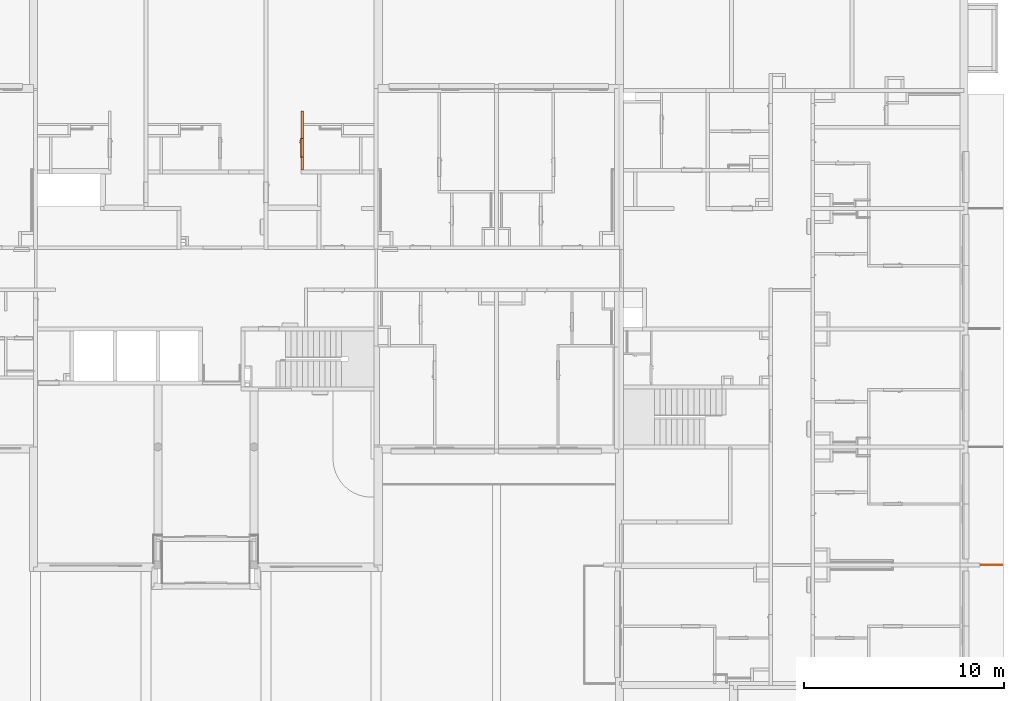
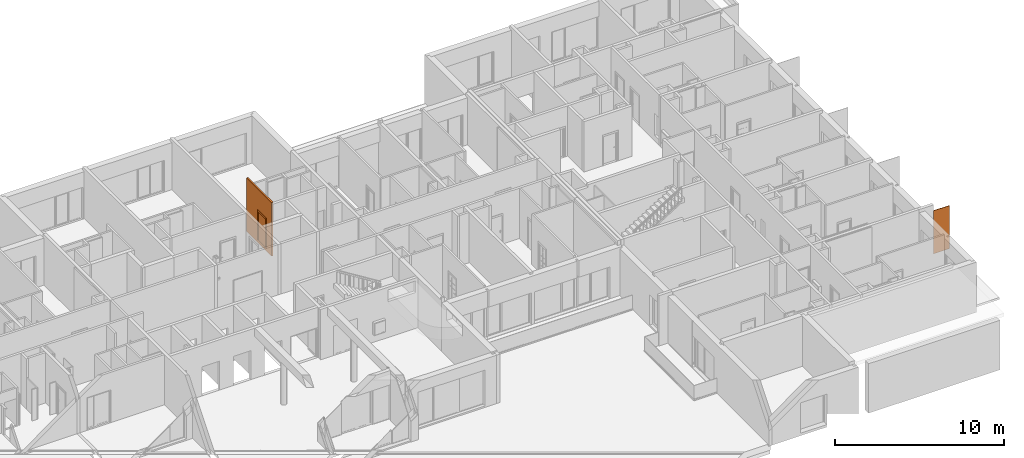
# One storey, part 16 of 46: 3 proxies, 1 opening.
"""IFC2X3 building model written with IfcOpenShell, lengths in millimetres."""

from ifc_helpers import new_model, entity, si_unit, converted_unit, derived_unit, money_unit, direction, frame, origin_with_axes, origin_2d_with_axis, place, context, subcontext, project, spatial, polyline, rectangle, outline, extrude, open_shell, faceted_brep, surface_model, source, transform, mapped, material, type_object, element, fill, save


model = new_model("IFC2X3")

# Units and contexts
model_context = context("Model", 3, precision=0.01, world=origin_with_axes(), true_north=direction((0.34421633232, 0.938890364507)))
body_context = subcontext(model_context, "Body", "Model", "MODEL_VIEW")
ifc_project = project(units=[si_unit("LENGTHUNIT", "METRE", prefix="MILLI"), si_unit("AREAUNIT", "SQUARE_METRE"), si_unit("VOLUMEUNIT", "CUBIC_METRE"), converted_unit("PLANEANGLEUNIT", "DEGREE", entity("IfcPlaneAngleMeasure", 0.0174532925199), si_unit("PLANEANGLEUNIT", "RADIAN"), dimensions=[0, 0, 0, 0, 0, 0, 0]), si_unit("SOLIDANGLEUNIT", "STERADIAN"), money_unit("USD"), converted_unit("TIMEUNIT", "Year", entity("IfcTimeMeasure", 31556926.0), si_unit("TIMEUNIT", "SECOND"), dimensions=[0, 0, 1, 0, 0, 0, 0]), si_unit("MASSUNIT", "GRAM", prefix="KILO"), si_unit("THERMODYNAMICTEMPERATUREUNIT", "DEGREE_CELSIUS"), si_unit("LUMINOUSINTENSITYUNIT", "LUMEN"), si_unit("ENERGYUNIT", "JOULE", prefix="MEGA"), derived_unit("THERMALCONDUCTANCEUNIT", [(si_unit("POWERUNIT", "WATT"), 1), (si_unit("LENGTHUNIT", "METRE"), -1), (si_unit("THERMODYNAMICTEMPERATUREUNIT", "KELVIN"), -1)]), derived_unit("SPECIFICHEATCAPACITYUNIT", [(si_unit("ENERGYUNIT", "JOULE"), 1), (si_unit("MASSUNIT", "GRAM", prefix="KILO"), -1), (si_unit("THERMODYNAMICTEMPERATUREUNIT", "KELVIN"), -1)]), derived_unit("MASSDENSITYUNIT", [(si_unit("MASSUNIT", "GRAM", prefix="KILO"), 1), (si_unit("VOLUMEUNIT", "CUBIC_METRE"), -1)])], contexts=[model_context])

# Site, building, storey
site_placement = place(None, origin_with_axes())
site = spatial("IfcSite", under=ifc_project, at=site_placement, Name="USTRONIE MORSKIE", CompositionType="ELEMENT")
building_placement = place(site_placement, origin_with_axes())
building = spatial("IfcBuilding", under=site, at=building_placement, Name="Budynek", CompositionType="ELEMENT")
storey_placement = place(building_placement, origin_with_axes())
storey = spatial("IfcBuildingStorey", under=building, at=storey_placement, Name="PARTER", CompositionType="ELEMENT", Elevation=0.0)

# Proxies, opening
ifc_material_1 = material(Name="Bloczki silikatowe")
building_element_proxy_type_1 = type_object("IfcBuildingElementProxyType", Name="Bloczki silikatowe 120", PredefinedType="NOTDEFINED")
proxy_1_placement = place(storey_placement, frame((392617.911316, 743681.199036, -230.0), z_axis=(0.0, 0.0, 1.0), x_axis=(0.0, -1.0, 0.0)))
proxy_1 = element("IfcBuildingElementProxy", 1, at=proxy_1_placement, inside=storey, type_object=building_element_proxy_type_1, material=ifc_material_1, Name="SW-04", context=body_context, shape_type="Brep", body=[
    faceted_brep([(2960.0, 60.0, 0.0), (2960.0, -60.0, 0.0), (0.0, -60.0, 0.0), (0.0, 60.0, 0.0), (2960.0, 60.0, 3870.0), (2960.0, -60.0, 3870.0), (0.0, -60.0, 3870.0), (0.0, 60.0, 3870.0)], [[[0, 1, 2, 3]], [[1, 0, 4, 5]], [[1, 5, 6, 2]], [[7, 3, 2, 6]], [[4, 0, 3, 7]], [[5, 4, 7, 6]]]),
])
opening_placement = place(proxy_1_placement, frame((1850.00001479, 0.0, 230.0), z_axis=(0.0, 0.0, 1.0), x_axis=(1.0, 0.0, 0.0)))
opening = element("IfcOpeningElement", 2, at=opening_placement, cuts=proxy_1, Name="Dw.4", context=body_context, shape_type="SweptSolid", body=[
    extrude(rectangle(XDim=920.0, YDim=2070.0, at=origin_2d_with_axis()), frame((0.0, -120.0, 1035.0), z_axis=(0.0, -1.0, 0.0), x_axis=(1.0, 0.0, 0.0)), (0.0, 0.0, -1.0), 360.0),
    extrude(rectangle(XDim=994.0, YDim=2177.0, at=origin_2d_with_axis()), frame((0.0, -60.0, 1088.5), z_axis=(0.0, -1.0, 0.0), x_axis=(1.0, 0.0, 0.0)), (0.0, 0.0, 1.0), 120.0),
    extrude(rectangle(XDim=994.0, YDim=2177.0, at=origin_2d_with_axis()), frame((0.0, 60.0, 1088.5), z_axis=(0.0, 1.0, 0.0), x_axis=(1.0, 0.0, 0.0)), (0.0, 0.0, 1.0), 120.0),
])
building_element_proxy_type_2 = type_object("IfcBuildingElementProxyType", Name="Drzwi 23", PredefinedType="NOTDEFINED")
shared_shape = source(origin_with_axes(), body_context, "Body", "SurfaceModel", [
    faceted_brep([(460.0, 0.0, 0.0), (435.0, 0.0, 0.0), (435.0, 5.0, 0.0), (460.0, 5.0, 0.0), (460.0, 0.0, 2070.0), (435.0, 0.0, 2045.0), (435.0, 5.0, 2045.0), (460.0, 5.0, 2070.0)], [[[0, 1, 2, 3]], [[0, 4, 5, 1]], [[1, 5, 6, 2]], [[3, 2, 6, 7]], [[4, 0, 3, 7]], [[5, 4, 7, 6]]]),
    faceted_brep([(-460.0, 0.0, 2070.0), (-435.0, 0.0, 2045.0), (-435.0, 5.0, 2045.0), (-460.0, 5.0, 2070.0), (-460.0, 0.0, 0.0), (-435.0, 0.0, 0.0), (-435.0, 5.0, 0.0), (-460.0, 5.0, 0.0)], [[[0, 1, 2, 3]], [[0, 4, 5, 1]], [[1, 5, 6, 2]], [[3, 2, 6, 7]], [[4, 0, 3, 7]], [[5, 4, 7, 6]]]),
    faceted_brep([(435.0, 0.0, 2045.0), (-435.0, 0.0, 2045.0), (-435.0, 5.0, 2045.0), (435.0, 5.0, 2045.0), (460.0, 0.0, 2070.0), (-460.0, 0.0, 2070.0), (-460.0, 5.0, 2070.0), (460.0, 5.0, 2070.0)], [[[0, 1, 2, 3]], [[0, 4, 5, 1]], [[1, 5, 6, 2]], [[3, 2, 6, 7]], [[4, 0, 3, 7]], [[5, 4, 7, 6]]]),
    faceted_brep([(497.0, 24.0, 0.0), (497.0, 5.0, 0.0), (447.0, 5.0, 0.0), (447.0, 24.0, 0.0), (497.0, 24.0, 2177.0), (497.0, 5.0, 2177.0), (447.0, 5.0, 2057.0), (447.0, 24.0, 2057.0)], [[[0, 1, 2, 3]], [[4, 5, 1, 0]], [[1, 5, 6, 2]], [[3, 2, 6, 7]], [[0, 3, 7, 4]], [[7, 6, 5, 4]]]),
    faceted_brep([(-497.0, 24.0, 2177.0), (-497.0, 5.0, 2177.0), (-447.0, 5.0, 2057.0), (-447.0, 24.0, 2057.0), (-497.0, 24.0, 0.0), (-497.0, 5.0, 0.0), (-447.0, 5.0, 0.0), (-447.0, 24.0, 0.0)], [[[0, 1, 2, 3]], [[4, 5, 1, 0]], [[1, 5, 6, 2]], [[3, 2, 6, 7]], [[0, 3, 7, 4]], [[7, 6, 5, 4]]]),
    faceted_brep([(497.0, 24.0, 2177.0), (497.0, 5.0, 2177.0), (447.0, 5.0, 2057.0), (447.0, 24.0, 2057.0), (-497.0, 24.0, 2177.0), (-497.0, 5.0, 2177.0), (-447.0, 5.0, 2057.0), (-447.0, 24.0, 2057.0)], [[[0, 1, 2, 3]], [[4, 5, 1, 0]], [[1, 5, 6, 2]], [[3, 2, 6, 7]], [[0, 3, 7, 4]], [[7, 6, 5, 4]]]),
    faceted_brep([(497.0, -134.0, 0.0), (447.0, -134.0, 0.0), (447.0, -115.0, 0.0), (497.0, -115.0, 0.0), (497.0, -134.0, 2177.0), (447.0, -134.0, 2057.0), (447.0, -115.0, 2057.0), (497.0, -115.0, 2177.0)], [[[0, 1, 2, 3]], [[0, 4, 5, 1]], [[1, 5, 6, 2]], [[3, 2, 6, 7]], [[4, 0, 3, 7]], [[5, 4, 7, 6]]]),
    faceted_brep([(-497.0, -134.0, 2177.0), (-447.0, -134.0, 2057.0), (-447.0, -115.0, 2057.0), (-497.0, -115.0, 2177.0), (-497.0, -134.0, 0.0), (-447.0, -134.0, 0.0), (-447.0, -115.0, 0.0), (-497.0, -115.0, 0.0)], [[[0, 1, 2, 3]], [[0, 4, 5, 1]], [[1, 5, 6, 2]], [[3, 2, 6, 7]], [[4, 0, 3, 7]], [[5, 4, 7, 6]]]),
    faceted_brep([(497.0, -134.0, 2177.0), (447.0, -134.0, 2057.0), (447.0, -115.0, 2057.0), (497.0, -115.0, 2177.0), (-497.0, -134.0, 2177.0), (-447.0, -134.0, 2057.0), (-447.0, -115.0, 2057.0), (-497.0, -115.0, 2177.0)], [[[0, 1, 2, 3]], [[0, 4, 5, 1]], [[1, 5, 6, 2]], [[3, 2, 6, 7]], [[4, 0, 3, 7]], [[5, 4, 7, 6]]]),
    faceted_brep([(400.0, -40.0, 0.0), (400.0, -115.0, 0.0), (400.0, -115.0, 2000.0), (400.0, -40.0, 2000.0), (412.0, -40.0, 0.0), (412.0, 0.0, 0.0), (460.0, 0.0, 0.0), (460.0, -115.0, 0.0), (460.0, -115.0, 2000.0), (412.0, -40.0, 2000.0), (460.0, 0.0, 2000.0), (412.0, 0.0, 2000.0)], [[[0, 1, 2, 3]], [[4, 5, 6, 7, 1, 0]], [[1, 7, 8, 2]], [[9, 3, 2, 8, 10, 11]], [[9, 4, 0, 3]], [[11, 5, 4, 9]], [[11, 10, 6, 5]], [[6, 10, 8, 7]]]),
    faceted_brep([(-412.0, -40.0, 2000.0), (-412.0, 0.0, 2000.0), (-460.0, 0.0, 2000.0), (-460.0, -115.0, 2000.0), (-400.0, -115.0, 2000.0), (-400.0, -40.0, 2000.0), (-412.0, -40.0, 0.0), (-412.0, 0.0, 0.0), (-460.0, 0.0, 0.0), (-460.0, -115.0, 0.0), (-400.0, -115.0, 0.0), (-400.0, -40.0, 0.0)], [[[0, 1, 2, 3, 4, 5]], [[0, 6, 7, 1]], [[7, 8, 2, 1]], [[2, 8, 9, 3]], [[3, 9, 10, 4]], [[5, 4, 10, 11]], [[5, 11, 6, 0]], [[6, 11, 10, 9, 8, 7]]]),
    faceted_brep([(412.0, 0.0, 2012.0), (-412.0, 0.0, 2012.0), (-412.0, 0.0, 2000.0), (-460.0, 0.0, 2000.0), (-460.0, 0.0, 2070.0), (460.0, 0.0, 2070.0), (460.0, 0.0, 2000.0), (412.0, 0.0, 2000.0), (412.0, -40.0, 2012.0), (-412.0, -40.0, 2012.0), (-412.0, -40.0, 2000.0), (-400.0, -40.0, 2000.0), (-400.0, -115.0, 2000.0), (-460.0, -115.0, 2000.0), (-460.0, -115.0, 2070.0), (460.0, -115.0, 2070.0), (460.0, -115.0, 2000.0), (412.0, -40.0, 2000.0), (400.0, -115.0, 2000.0), (400.0, -40.0, 2000.0)], [[[0, 1, 2, 3, 4, 5, 6, 7]], [[0, 8, 9, 1]], [[1, 9, 10, 2]], [[10, 11, 12, 13, 3, 2]], [[4, 3, 13, 14]], [[5, 4, 14, 15]], [[6, 5, 15, 16]], [[17, 7, 6, 16, 18, 19]], [[7, 17, 8, 0]], [[10, 9, 8, 17, 19, 11]], [[19, 18, 12, 11]], [[12, 18, 16, 15, 14, 13]]]),
    faceted_brep([(390.5, -40.0, 1060.0), (333.5, -40.0, 1060.0), (333.5, -43.0, 1060.0), (390.5, -43.0, 1060.0), (390.5, -40.0, 870.0), (333.5, -40.0, 870.0), (333.5, -43.0, 870.0), (390.5, -43.0, 870.0)], [[[0, 1, 2, 3]], [[0, 4, 5, 1]], [[1, 5, 6, 2]], [[3, 2, 6, 7]], [[4, 0, 3, 7]], [[5, 4, 7, 6]]]),
    faceted_brep([(362.0, -104.0, 990.0), (367.0, -104.0, 991.339745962), (367.0, -111.0, 991.339745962), (362.0, -111.0, 990.0), (337.0, -104.0, 990.0), (337.0, -104.0, 1010.0), (362.0, -104.0, 1010.0), (367.0, -104.0, 1008.66025404), (370.660254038, -104.0, 1005.0), (372.0, -104.0, 1000.0), (370.660254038, -104.0, 995.0), (370.660254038, -111.0, 995.0), (372.0, -111.0, 1000.0), (370.660254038, -111.0, 1005.0), (367.0, -111.0, 1008.66025404), (362.0, -111.0, 1010.0), (337.0, -111.0, 1010.0), (337.0, -111.0, 990.0)], [[[0, 1, 2, 3]], [[0, 4, 5, 6, 7, 8, 9, 10, 1]], [[1, 10, 11, 2]], [[3, 2, 11, 12, 13, 14, 15, 16, 17]], [[4, 0, 3, 17]], [[5, 4, 17, 16]], [[6, 5, 16, 15]], [[7, 6, 15, 14]], [[8, 7, 14, 13]], [[9, 8, 13, 12]], [[10, 9, 12, 11]]]),
    surface_model("IfcShellBasedSurfaceModel", [(337.0, -104.0, 1010.0), (323.901717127, -104.0, 1009.60730092), (323.596090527, -111.0, 1009.60730092), (337.0, -104.0, 990.0), (323.901717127, -104.0, 990.392699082), (296.890283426, -108.663544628, 1008.82190275), (337.0, -111.0, 1010.0), (337.0, -111.0, 990.0), (297.804837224, -101.716818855, 991.178097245), (297.804837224, -101.716818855, 1008.82190275), (296.890283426, -108.663544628, 991.178097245), (323.596090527, -111.0, 990.392699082), (272.006256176, -97.1678329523, 991.963495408), (272.006256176, -97.1678329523, 1008.03650459), (270.489735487, -104.008415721, 1008.03650459), (270.489735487, -104.008415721, 991.963495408), (246.702316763, -90.3876628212, 992.748893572), (246.702316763, -90.3876628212, 1007.25110643), (244.59537082, -97.0700416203, 1007.25110643), (244.59537082, -97.0700416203, 992.748893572), (238.829442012, -87.5221707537, 993.0), (238.829442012, -87.5221707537, 1007.0), (236.538795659, -94.1376880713, 1007.0), (236.538795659, -94.1376880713, 993.0)], [open_shell([[[0, 1, 2]], [[0, 3, 4, 1]], [[1, 5, 2]], [[0, 2, 6]], [[4, 3, 7]], [[1, 4, 8, 9]], [[1, 9, 5]], [[2, 5, 10, 11]], [[6, 2, 11, 7]], [[4, 7, 11]], [[8, 4, 11]], [[9, 8, 12, 13]], [[9, 14, 5]], [[5, 14, 15, 10]], [[8, 11, 10]], [[12, 8, 10]], [[13, 12, 16, 17]], [[9, 13, 14]], [[14, 18, 19, 15]], [[12, 10, 15]], [[16, 12, 15]], [[17, 16, 20, 21]], [[13, 17, 18]], [[13, 18, 14]], [[18, 22, 23, 19]], [[16, 15, 19]], [[20, 16, 19]], [[21, 20, 23, 22]], [[17, 21, 22]], [[17, 22, 18]], [[20, 19, 23]]])]),
    faceted_brep([(351.607695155, -53.0, 994.0), (350.0, -53.0, 1000.0), (349.0, -43.0, 1000.0), (350.741669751, -43.0, 993.5), (356.0, -53.0, 989.607695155), (362.0, -53.0, 988.0), (368.0, -53.0, 989.607695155), (372.392304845, -53.0, 994.0), (374.0, -53.0, 1000.0), (372.392304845, -53.0, 1006.0), (368.0, -53.0, 1010.39230485), (362.0, -53.0, 1012.0), (356.0, -53.0, 1010.39230485), (351.607695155, -53.0, 1006.0), (350.741669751, -43.0, 1006.5), (355.5, -43.0, 1011.25833025), (362.0, -43.0, 1013.0), (368.5, -43.0, 1011.25833025), (373.258330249, -43.0, 1006.5), (375.0, -43.0, 1000.0), (373.258330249, -43.0, 993.5), (368.5, -43.0, 988.741669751), (362.0, -43.0, 987.0), (355.5, -43.0, 988.741669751)], [[[0, 1, 2, 3]], [[1, 0, 4, 5, 6, 7, 8, 9, 10, 11, 12, 13]], [[1, 13, 14, 2]], [[2, 14, 15, 16, 17, 18, 19, 20, 21, 22, 23, 3]], [[4, 0, 3, 23]], [[5, 4, 23, 22]], [[6, 5, 22, 21]], [[7, 6, 21, 20]], [[8, 7, 20, 19]], [[9, 8, 19, 18]], [[10, 9, 18, 17]], [[11, 10, 17, 16]], [[12, 11, 16, 15]], [[13, 12, 15, 14]]]),
    faceted_brep([(344.679491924, -47.0, 895.0), (342.0, -47.0, 905.0), (340.0, -43.0, 905.0), (342.947441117, -43.0, 894.0), (352.0, -47.0, 887.679491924), (362.0, -47.0, 885.0), (372.0, -47.0, 887.679491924), (379.320508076, -47.0, 895.0), (382.0, -47.0, 905.0), (379.320508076, -47.0, 915.0), (372.0, -47.0, 922.320508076), (362.0, -47.0, 925.0), (352.0, -47.0, 922.320508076), (344.679491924, -47.0, 915.0), (342.947441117, -43.0, 916.0), (351.0, -43.0, 924.052558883), (362.0, -43.0, 927.0), (373.0, -43.0, 924.052558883), (381.052558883, -43.0, 916.0), (384.0, -43.0, 905.0), (381.052558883, -43.0, 894.0), (373.0, -43.0, 885.947441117), (362.0, -43.0, 883.0), (351.0, -43.0, 885.947441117)], [[[0, 1, 2, 3]], [[1, 0, 4, 5, 6, 7, 8, 9, 10, 11, 12, 13]], [[1, 13, 14, 2]], [[2, 14, 15, 16, 17, 18, 19, 20, 21, 22, 23, 3]], [[4, 0, 3, 23]], [[5, 4, 23, 22]], [[6, 5, 22, 21]], [[7, 6, 21, 20]], [[8, 7, 20, 19]], [[9, 8, 19, 18]], [[10, 9, 18, 17]], [[11, 10, 17, 16]], [[12, 11, 16, 15]], [[13, 12, 15, 14]]]),
    faceted_brep([(357.050252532, -49.0, 909.050252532), (355.0, -49.0, 914.0), (354.0, -47.0, 914.0), (356.343145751, -47.0, 908.343145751), (362.0, -49.0, 907.0), (366.949747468, -49.0, 909.050252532), (369.0, -49.0, 914.0), (366.949747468, -49.0, 918.949747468), (362.0, -49.0, 921.0), (357.050252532, -49.0, 918.949747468), (356.343145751, -47.0, 919.656854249), (362.0, -47.0, 922.0), (367.656854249, -47.0, 919.656854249), (370.0, -47.0, 914.0), (367.656854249, -47.0, 908.343145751), (362.0, -47.0, 906.0)], [[[0, 1, 2, 3]], [[1, 0, 4, 5, 6, 7, 8, 9]], [[1, 9, 10, 2]], [[2, 10, 11, 12, 13, 14, 15, 3]], [[4, 0, 3, 15]], [[5, 4, 15, 14]], [[6, 5, 14, 13]], [[7, 6, 13, 12]], [[8, 7, 12, 11]], [[9, 8, 11, 10]]]),
    faceted_brep([(362.0, -53.0, 1010.0), (357.0, -53.0, 1008.66025404), (357.0, -104.0, 1008.66025404), (362.0, -104.0, 1010.0), (367.0, -53.0, 1008.66025404), (370.660254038, -53.0, 1005.0), (372.0, -53.0, 1000.0), (370.660254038, -53.0, 995.0), (367.0, -53.0, 991.339745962), (362.0, -53.0, 990.0), (357.0, -53.0, 991.339745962), (353.339745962, -53.0, 995.0), (352.0, -53.0, 1000.0), (353.339745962, -53.0, 1005.0), (353.339745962, -104.0, 1005.0), (352.0, -104.0, 1000.0), (353.339745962, -104.0, 995.0), (357.0, -104.0, 991.339745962), (362.0, -104.0, 990.0), (367.0, -104.0, 991.339745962), (370.660254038, -104.0, 995.0), (372.0, -104.0, 1000.0), (370.660254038, -104.0, 1005.0), (367.0, -104.0, 1008.66025404)], [[[0, 1, 2, 3]], [[0, 4, 5, 6, 7, 8, 9, 10, 11, 12, 13, 1]], [[1, 13, 14, 2]], [[3, 2, 14, 15, 16, 17, 18, 19, 20, 21, 22, 23]], [[4, 0, 3, 23]], [[5, 4, 23, 22]], [[6, 5, 22, 21]], [[7, 6, 21, 20]], [[8, 7, 20, 19]], [[9, 8, 19, 18]], [[10, 9, 18, 17]], [[11, 10, 17, 16]], [[12, 11, 16, 15]], [[13, 12, 15, 14]]]),
    faceted_brep([(390.5, 0.0, 1060.0), (390.5, 3.0, 1060.0), (333.5, 3.0, 1060.0), (333.5, 0.0, 1060.0), (390.5, 0.0, 870.0), (390.5, 3.0, 870.0), (333.5, 3.0, 870.0), (333.5, 0.0, 870.0)], [[[0, 1, 2, 3]], [[4, 5, 1, 0]], [[1, 5, 6, 2]], [[3, 2, 6, 7]], [[0, 3, 7, 4]], [[7, 6, 5, 4]]]),
    faceted_brep([(362.0, 64.0, 990.0), (362.0, 71.0, 990.0), (367.0, 71.0, 991.339745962), (367.0, 64.0, 991.339745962), (337.0, 64.0, 990.0), (337.0, 71.0, 990.0), (337.0, 71.0, 1010.0), (362.0, 71.0, 1010.0), (367.0, 71.0, 1008.66025404), (370.660254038, 71.0, 1005.0), (372.0, 71.0, 1000.0), (370.660254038, 71.0, 995.0), (370.660254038, 64.0, 995.0), (372.0, 64.0, 1000.0), (370.660254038, 64.0, 1005.0), (367.0, 64.0, 1008.66025404), (362.0, 64.0, 1010.0), (337.0, 64.0, 1010.0)], [[[0, 1, 2, 3]], [[4, 5, 1, 0]], [[1, 5, 6, 7, 8, 9, 10, 11, 2]], [[3, 2, 11, 12]], [[0, 3, 12, 13, 14, 15, 16, 17, 4]], [[17, 6, 5, 4]], [[16, 7, 6, 17]], [[15, 8, 7, 16]], [[14, 9, 8, 15]], [[13, 10, 9, 14]], [[12, 11, 10, 13]]]),
    surface_model("IfcShellBasedSurfaceModel", [(337.0, 64.0, 1010.0), (323.596090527, 71.0, 1009.60730092), (323.901717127, 64.0, 1009.60730092), (337.0, 71.0, 1010.0), (296.890283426, 68.6635446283, 1008.82190275), (323.901717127, 64.0, 990.392699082), (337.0, 64.0, 990.0), (337.0, 71.0, 990.0), (323.596090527, 71.0, 990.392699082), (296.890283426, 68.6635446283, 991.178097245), (297.804837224, 61.716818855, 1008.82190275), (297.804837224, 61.716818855, 991.178097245), (270.489735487, 64.0084157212, 991.963495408), (270.489735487, 64.0084157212, 1008.03650459), (272.006256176, 57.1678329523, 1008.03650459), (272.006256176, 57.1678329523, 991.963495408), (244.59537082, 57.0700416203, 992.748893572), (244.59537082, 57.0700416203, 1007.25110643), (246.702316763, 50.3876628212, 1007.25110643), (246.702316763, 50.3876628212, 992.748893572), (236.538795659, 54.1376880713, 993.0), (236.538795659, 54.1376880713, 1007.0), (238.829442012, 47.5221707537, 1007.0), (238.829442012, 47.5221707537, 993.0)], [open_shell([[[0, 1, 2]], [[0, 3, 1]], [[2, 1, 4]], [[0, 2, 5, 6]], [[3, 7, 8, 1]], [[1, 8, 9, 4]], [[2, 4, 10]], [[2, 10, 11, 5]], [[5, 7, 6]], [[5, 8, 7]], [[11, 9, 8]], [[4, 9, 12, 13]], [[10, 4, 13]], [[10, 14, 15, 11]], [[11, 8, 5]], [[15, 9, 11]], [[15, 12, 9]], [[13, 12, 16, 17]], [[10, 13, 14]], [[14, 18, 19, 15]], [[19, 12, 15]], [[19, 16, 12]], [[17, 16, 20, 21]], [[14, 13, 17]], [[14, 17, 18]], [[18, 22, 23, 19]], [[23, 16, 19]], [[23, 20, 16]], [[22, 21, 20, 23]], [[18, 17, 21]], [[18, 21, 22]]])]),
    faceted_brep([(351.607695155, 13.0, 994.0), (350.741669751, 3.0, 993.5), (349.0, 3.0, 1000.0), (350.0, 13.0, 1000.0), (356.0, 13.0, 989.607695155), (355.5, 3.0, 988.741669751), (362.0, 3.0, 987.0), (368.5, 3.0, 988.741669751), (373.258330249, 3.0, 993.5), (375.0, 3.0, 1000.0), (373.258330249, 3.0, 1006.5), (368.5, 3.0, 1011.25833025), (362.0, 3.0, 1013.0), (355.5, 3.0, 1011.25833025), (350.741669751, 3.0, 1006.5), (351.607695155, 13.0, 1006.0), (356.0, 13.0, 1010.39230485), (362.0, 13.0, 1012.0), (368.0, 13.0, 1010.39230485), (372.392304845, 13.0, 1006.0), (374.0, 13.0, 1000.0), (372.392304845, 13.0, 994.0), (368.0, 13.0, 989.607695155), (362.0, 13.0, 988.0)], [[[0, 1, 2, 3]], [[4, 5, 1, 0]], [[2, 1, 5, 6, 7, 8, 9, 10, 11, 12, 13, 14]], [[3, 2, 14, 15]], [[3, 15, 16, 17, 18, 19, 20, 21, 22, 23, 4, 0]], [[23, 6, 5, 4]], [[22, 7, 6, 23]], [[21, 8, 7, 22]], [[20, 9, 8, 21]], [[19, 10, 9, 20]], [[18, 11, 10, 19]], [[17, 12, 11, 18]], [[16, 13, 12, 17]], [[15, 14, 13, 16]]]),
    faceted_brep([(344.679491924, 7.0, 895.0), (342.947441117, 3.0, 894.0), (340.0, 3.0, 905.0), (342.0, 7.0, 905.0), (352.0, 7.0, 887.679491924), (351.0, 3.0, 885.947441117), (362.0, 3.0, 883.0), (373.0, 3.0, 885.947441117), (381.052558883, 3.0, 894.0), (384.0, 3.0, 905.0), (381.052558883, 3.0, 916.0), (373.0, 3.0, 924.052558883), (362.0, 3.0, 927.0), (351.0, 3.0, 924.052558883), (342.947441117, 3.0, 916.0), (344.679491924, 7.0, 915.0), (352.0, 7.0, 922.320508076), (362.0, 7.0, 925.0), (372.0, 7.0, 922.320508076), (379.320508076, 7.0, 915.0), (382.0, 7.0, 905.0), (379.320508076, 7.0, 895.0), (372.0, 7.0, 887.679491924), (362.0, 7.0, 885.0)], [[[0, 1, 2, 3]], [[4, 5, 1, 0]], [[2, 1, 5, 6, 7, 8, 9, 10, 11, 12, 13, 14]], [[3, 2, 14, 15]], [[3, 15, 16, 17, 18, 19, 20, 21, 22, 23, 4, 0]], [[23, 6, 5, 4]], [[22, 7, 6, 23]], [[21, 8, 7, 22]], [[20, 9, 8, 21]], [[19, 10, 9, 20]], [[18, 11, 10, 19]], [[17, 12, 11, 18]], [[16, 13, 12, 17]], [[15, 14, 13, 16]]]),
    faceted_brep([(357.050252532, 9.0, 909.050252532), (356.343145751, 7.0, 908.343145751), (354.0, 7.0, 914.0), (355.0, 9.0, 914.0), (362.0, 9.0, 907.0), (362.0, 7.0, 906.0), (367.656854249, 7.0, 908.343145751), (370.0, 7.0, 914.0), (367.656854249, 7.0, 919.656854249), (362.0, 7.0, 922.0), (356.343145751, 7.0, 919.656854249), (357.050252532, 9.0, 918.949747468), (362.0, 9.0, 921.0), (366.949747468, 9.0, 918.949747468), (369.0, 9.0, 914.0), (366.949747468, 9.0, 909.050252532)], [[[0, 1, 2, 3]], [[4, 5, 1, 0]], [[2, 1, 5, 6, 7, 8, 9, 10]], [[3, 2, 10, 11]], [[3, 11, 12, 13, 14, 15, 4, 0]], [[15, 6, 5, 4]], [[14, 7, 6, 15]], [[13, 8, 7, 14]], [[12, 9, 8, 13]], [[11, 10, 9, 12]]]),
    faceted_brep([(362.0, 13.0, 1010.0), (362.0, 64.0, 1010.0), (357.0, 64.0, 1008.66025404), (357.0, 13.0, 1008.66025404), (367.0, 13.0, 1008.66025404), (367.0, 64.0, 1008.66025404), (370.660254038, 64.0, 1005.0), (372.0, 64.0, 1000.0), (370.660254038, 64.0, 995.0), (367.0, 64.0, 991.339745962), (362.0, 64.0, 990.0), (357.0, 64.0, 991.339745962), (353.339745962, 64.0, 995.0), (352.0, 64.0, 1000.0), (353.339745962, 64.0, 1005.0), (353.339745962, 13.0, 1005.0), (352.0, 13.0, 1000.0), (353.339745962, 13.0, 995.0), (357.0, 13.0, 991.339745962), (362.0, 13.0, 990.0), (367.0, 13.0, 991.339745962), (370.660254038, 13.0, 995.0), (372.0, 13.0, 1000.0), (370.660254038, 13.0, 1005.0)], [[[0, 1, 2, 3]], [[4, 5, 1, 0]], [[1, 5, 6, 7, 8, 9, 10, 11, 12, 13, 14, 2]], [[3, 2, 14, 15]], [[0, 3, 15, 16, 17, 18, 19, 20, 21, 22, 23, 4]], [[23, 6, 5, 4]], [[22, 7, 6, 23]], [[21, 8, 7, 22]], [[20, 9, 8, 21]], [[19, 10, 9, 20]], [[18, 11, 10, 19]], [[17, 12, 11, 18]], [[16, 13, 12, 17]], [[15, 14, 13, 16]]]),
    faceted_brep([(-412.0, 0.0, 0.0), (412.0, 0.0, 0.0), (412.0, -40.0, 0.0), (-412.0, -40.0, 0.0), (-412.0, 0.0, 2012.0), (412.0, 0.0, 2012.0), (412.0, -40.0, 2012.0), (-412.0, -40.0, 2012.0)], [[[0, 1, 2, 3]], [[0, 4, 5, 1]], [[1, 5, 6, 2]], [[3, 2, 6, 7]], [[4, 0, 3, 7]], [[5, 4, 7, 6]]]),
])
proxy_2_placement = place(opening_placement, frame((400.0, 0.0, 0.0), z_axis=(0.0, 0.0, 1.0), x_axis=(-1.0, 0.0, 0.0)))
proxy_2 = element("IfcBuildingElementProxy", 3, at=proxy_2_placement, inside=storey, type_object=building_element_proxy_type_2, Name="Dw.4", context=body_context, shape_type="MappedRepresentation", body=[
    mapped(shared_shape, transform((400.0, 55.0, 0.0))),
])
fill(opening, proxy_2)

# Proxy
ifc_material_2 = material(Name="Woda")
building_element_proxy_type_3 = type_object("IfcBuildingElementProxyType", Name="Woda 30", PredefinedType="NOTDEFINED")
proxy_3_placement = place(storey_placement, frame((426517.920919, 721001.199036, 20.0), z_axis=(0.0, 0.0, 1.0), x_axis=(0.99999999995, -1.00021543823e-05, 0.0)))
element("IfcBuildingElementProxy", 4, at=proxy_3_placement, inside=storey, type_object=building_element_proxy_type_3, material=ifc_material_2, Name="Œciana-007", context=body_context, shape_type="SweptSolid", body=[
    extrude(outline(polyline([(0.0, -15.0), (1070.00000005, -15.0), (1070.00000005, 15.0), (0.0, 15.0), (0.0, -15.0)])), origin_with_axes(), (0.0, 0.0, 1.0), 3120.0),
])

save(model, "model.ifc")
